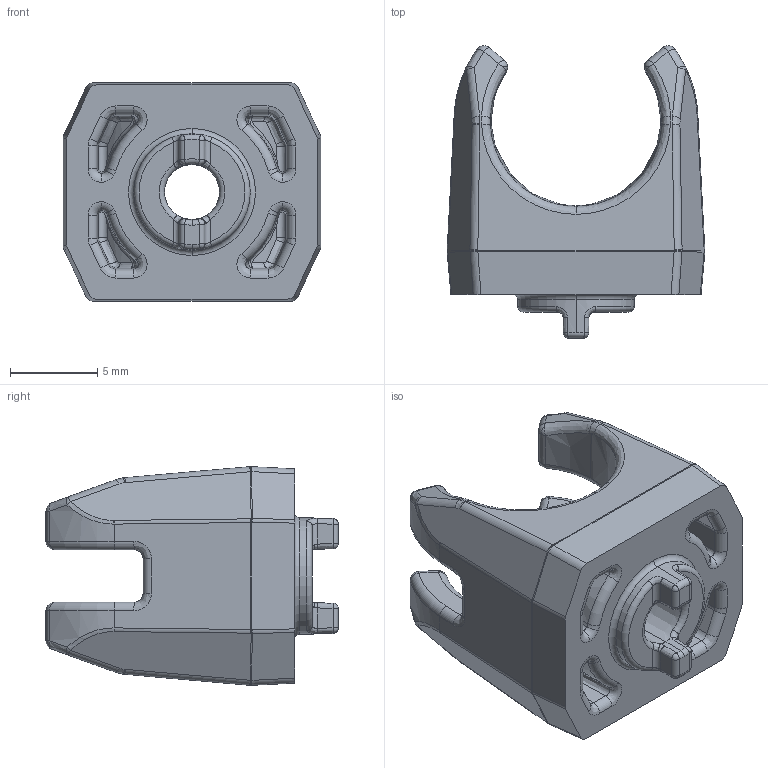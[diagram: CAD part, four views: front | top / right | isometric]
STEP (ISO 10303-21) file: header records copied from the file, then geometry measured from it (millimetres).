
FILE_DESCRIPTION (( 'STEP AP214' ), '1' );
FILE_NAME ('106-02180.STEP', '2024-02-28T16:59:50', ( '' ), ( '' ), 'SwSTEP 2.0', 'SolidWorks 2022', '' );
FILE_SCHEMA (( 'AUTOMOTIVE_DESIGN' ));
Length unit declared in the file: inch
Products named in the file (1): 106-02180
Bounding box: 14.8 x 16.78 x 12.56 mm (x, y, z)
Volume: 1124.5 mm3; surface area: 1228.5 mm2
Topology: 1 solids, 1 shells, 413 faces, 959 edges, 536 vertices
Faces by surface type: bspline 104, cylinder 104, sphere 70, torus 52, plane 52, cone 31
Entity records: 13263 total; most frequent: CARTESIAN_POINT 4763, ORIENTED_EDGE 1870, DIRECTION 1737, EDGE_CURVE 935, AXIS2_PLACEMENT_3D 758, VERTEX_POINT 528, CIRCLE 448, EDGE_LOOP 419
